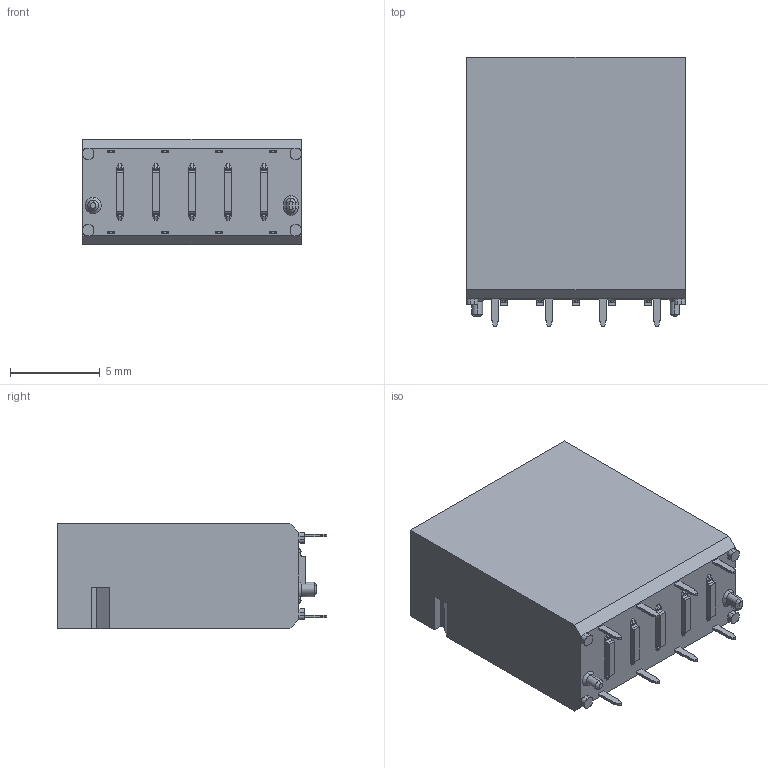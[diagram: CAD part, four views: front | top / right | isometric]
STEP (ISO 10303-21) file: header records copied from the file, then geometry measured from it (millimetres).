
FILE_DESCRIPTION (( 'STEP AP214' ), '1' );
FILE_NAME ('214919.STEP', '2014-01-22T09:53:09', ( 'ERNI Electronics GmbH' ), ( 'ERNI Electronics GmbH' ), 'SwSTEP 2.0', 'SolidWorks 2013', '' );
FILE_SCHEMA (( 'AUTOMOTIVE_DESIGN' ));
Length unit declared in the file: millimetre
Products named in the file (1): 214919
Bounding box: 12.15 x 15 x 5.85 mm (x, y, z)
Volume: 796.2 mm3; surface area: 834 mm2
Topology: 1 solids, 1 shells, 801 faces, 2307 edges, 1528 vertices
Faces by surface type: plane 468, cylinder 323, cone 10
Entity records: 35331 total; most frequent: CARTESIAN_POINT 5279, ORIENTED_EDGE 4614, DIRECTION 4306, EDGE_CURVE 2307, LINE 1632, VECTOR 1632, VERTEX_POINT 1528, AXIS2_PLACEMENT_3D 1337
